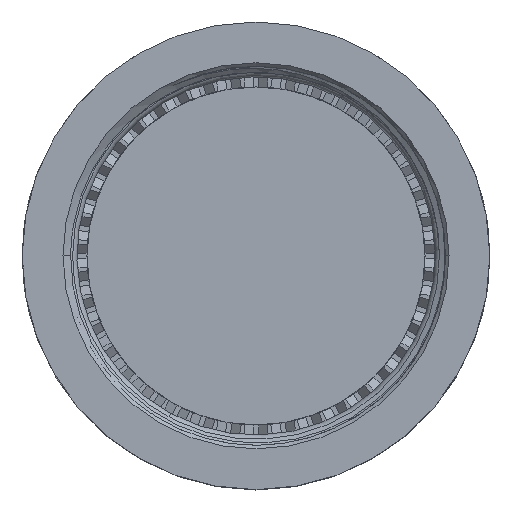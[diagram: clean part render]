
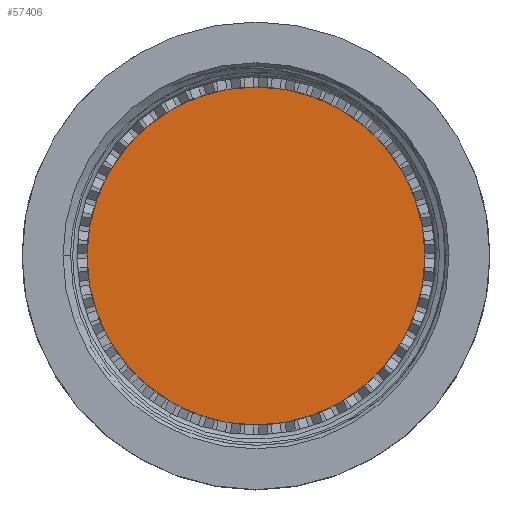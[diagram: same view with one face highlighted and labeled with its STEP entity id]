
A CAD part, top view. The second image highlights one B-rep face of the part: STEP entity #57406.
In plain terms, the highlighted planar face has unit normal (0, 0, 1).
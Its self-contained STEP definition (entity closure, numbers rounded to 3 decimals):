
#3146 = EDGE_LOOP ( 'NONE', ( #57253, #27398 ) ) ;
#3810 = CARTESIAN_POINT ( 'NONE',  ( 0., 0., -1.745 ) ) ;
#5770 = EDGE_CURVE ( 'NONE', #41040, #10660, #10882, .T. ) ;
#10660 = VERTEX_POINT ( 'NONE', #48082 ) ;
#10882 = CIRCLE ( 'NONE', #17109, 15.1 ) ;
#14221 = FACE_OUTER_BOUND ( 'NONE', #3146, .T. ) ;
#17109 = AXIS2_PLACEMENT_3D ( 'NONE', #46768, #45464, #41236 ) ;
#17924 = CIRCLE ( 'NONE', #58530, 15.1 ) ;
#18502 = DIRECTION ( 'NONE',  ( -1., 0., 0. ) ) ;
#27398 = ORIENTED_EDGE ( 'NONE', *, *, #44805, .T. ) ;
#29490 = AXIS2_PLACEMENT_3D ( 'NONE', #3810, #63125, #18502 ) ;
#29938 = CARTESIAN_POINT ( 'NONE',  ( 0., 0., -1.745 ) ) ;
#38040 = PLANE ( 'NONE',  #29490 ) ;
#41040 = VERTEX_POINT ( 'NONE', #63288 ) ;
#41236 = DIRECTION ( 'NONE',  ( -1., 0., 0. ) ) ;
#44805 = EDGE_CURVE ( 'NONE', #10660, #41040, #17924, .T. ) ;
#45464 = DIRECTION ( 'NONE',  ( 0., 0., 1. ) ) ;
#46768 = CARTESIAN_POINT ( 'NONE',  ( 0., 0., -1.745 ) ) ;
#48082 = CARTESIAN_POINT ( 'NONE',  ( -15.1, 0., -1.745 ) ) ;
#49812 = DIRECTION ( 'NONE',  ( 0., 0., 1. ) ) ;
#57253 = ORIENTED_EDGE ( 'NONE', *, *, #5770, .T. ) ;
#57406 = ADVANCED_FACE ( 'NONE', ( #14221 ), #38040, .F. ) ;
#58530 = AXIS2_PLACEMENT_3D ( 'NONE', #29938, #49812, #64149 ) ;
#63125 = DIRECTION ( 'NONE',  ( 0., 0., -1. ) ) ;
#63288 = CARTESIAN_POINT ( 'NONE',  ( 15.1, 0., -1.745 ) ) ;
#64149 = DIRECTION ( 'NONE',  ( -1., 0., 0. ) ) ;
